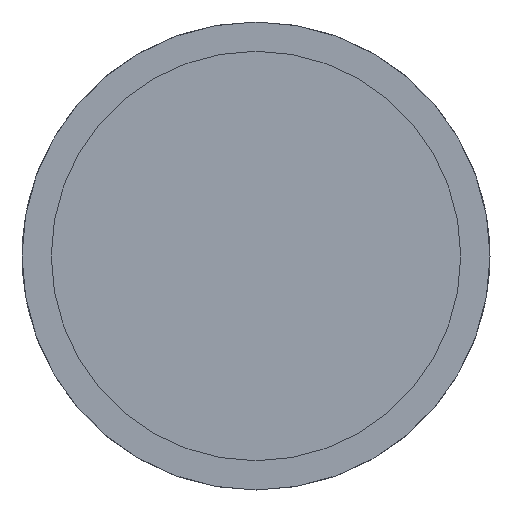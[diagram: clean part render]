
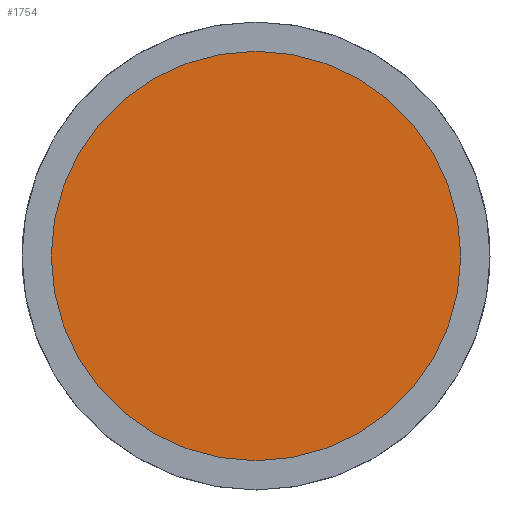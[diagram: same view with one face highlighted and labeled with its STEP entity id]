
A CAD part, front view. The second image highlights one B-rep face of the part: STEP entity #1754.
In plain terms, the highlighted planar face has unit normal (0, -1, 0).
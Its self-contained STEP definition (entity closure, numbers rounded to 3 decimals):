
#60 = FACE_OUTER_BOUND ( 'NONE', #1582, .T. ) ;
#94 = CARTESIAN_POINT ( 'NONE',  ( -35., 0., 0. ) ) ;
#115 = CARTESIAN_POINT ( 'NONE',  ( 35., 0., 0. ) ) ;
#277 = DIRECTION ( 'NONE',  ( -1., 0., 0. ) ) ;
#428 = VERTEX_POINT ( 'NONE', #94 ) ;
#450 = EDGE_CURVE ( 'NONE', #428, #2085, #1264, .T. ) ;
#594 = DIRECTION ( 'NONE',  ( 0., 1., 0. ) ) ;
#651 = DIRECTION ( 'NONE',  ( 0., -1., 0. ) ) ;
#741 = CIRCLE ( 'NONE', #2059, 35. ) ;
#872 = PLANE ( 'NONE',  #2393 ) ;
#881 = CARTESIAN_POINT ( 'NONE',  ( 0., 0., 0. ) ) ;
#890 = DIRECTION ( 'NONE',  ( 1., 0., 0. ) ) ;
#940 = ORIENTED_EDGE ( 'NONE', *, *, #450, .F. ) ;
#999 = DIRECTION ( 'NONE',  ( -1., 0., 0. ) ) ;
#1264 = CIRCLE ( 'NONE', #1778, 35. ) ;
#1582 = EDGE_LOOP ( 'NONE', ( #940, #1855 ) ) ;
#1637 = EDGE_CURVE ( 'NONE', #2085, #428, #741, .T. ) ;
#1639 = CARTESIAN_POINT ( 'NONE',  ( 0., 0., 0. ) ) ;
#1754 = ADVANCED_FACE ( 'NONE', ( #60 ), #872, .T. ) ;
#1778 = AXIS2_PLACEMENT_3D ( 'NONE', #881, #2530, #277 ) ;
#1855 = ORIENTED_EDGE ( 'NONE', *, *, #1637, .F. ) ;
#1929 = CARTESIAN_POINT ( 'NONE',  ( 0., 0., 0. ) ) ;
#2059 = AXIS2_PLACEMENT_3D ( 'NONE', #1639, #594, #999 ) ;
#2085 = VERTEX_POINT ( 'NONE', #115 ) ;
#2393 = AXIS2_PLACEMENT_3D ( 'NONE', #1929, #651, #890 ) ;
#2530 = DIRECTION ( 'NONE',  ( 0., 1., 0. ) ) ;
